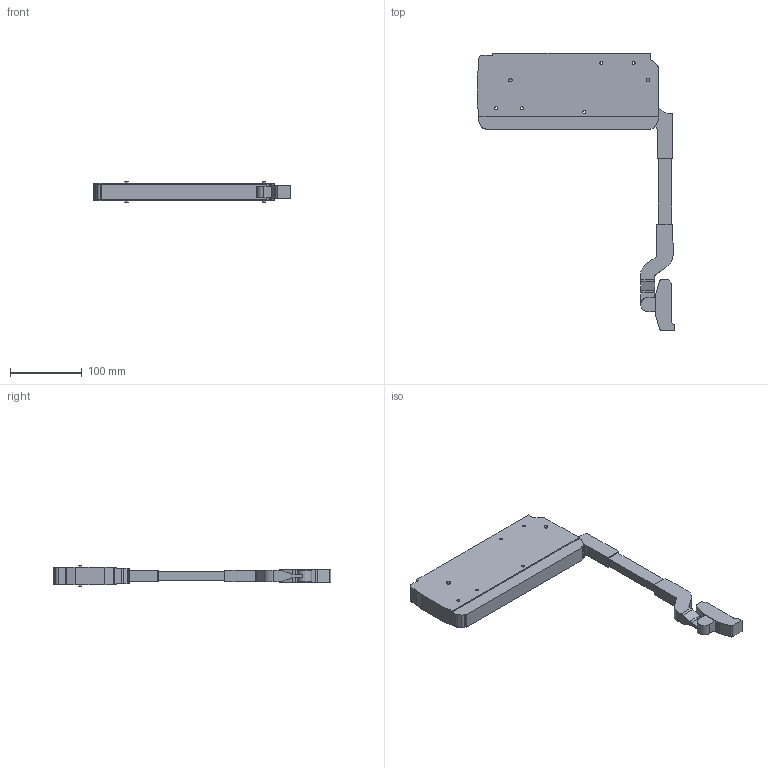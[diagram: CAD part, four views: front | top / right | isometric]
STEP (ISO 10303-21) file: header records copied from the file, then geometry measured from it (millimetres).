
FILE_DESCRIPTION (( 'STEP AP214' ), '1' );
FILE_NAME ('ST02AL(M).STEP', '2021-04-10T03:20:29', ( 'Windows 蚚誧' ), ( '' ), 'SwSTEP 2.0', 'SolidWorks 2018', '' );
FILE_SCHEMA (( 'AUTOMOTIVE_DESIGN' ));
Length unit declared in the file: millimetre
Products named in the file (1): ST02AL(M)
Bounding box: 275.56 x 387.77 x 28.6 mm (x, y, z)
Volume: 763128.3 mm3; surface area: 98437.7 mm2
Topology: 1 solids, 1 shells, 126 faces, 351 edges, 234 vertices
Faces by surface type: plane 68, cylinder 58
Entity records: 4578 total; most frequent: DIRECTION 723, CARTESIAN_POINT 712, ORIENTED_EDGE 702, EDGE_CURVE 351, AXIS2_PLACEMENT_3D 245, VERTEX_POINT 234, VECTOR 233, LINE 233
